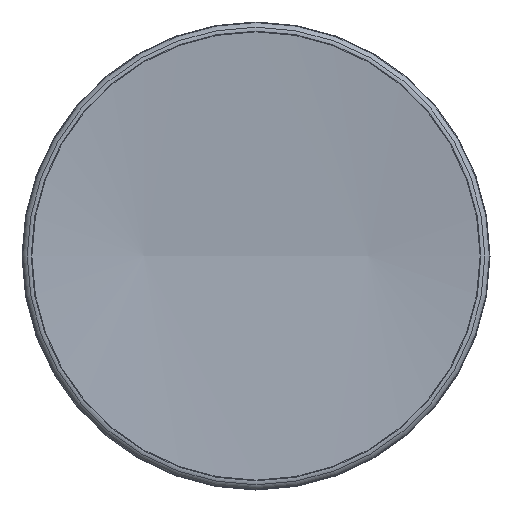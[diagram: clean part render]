
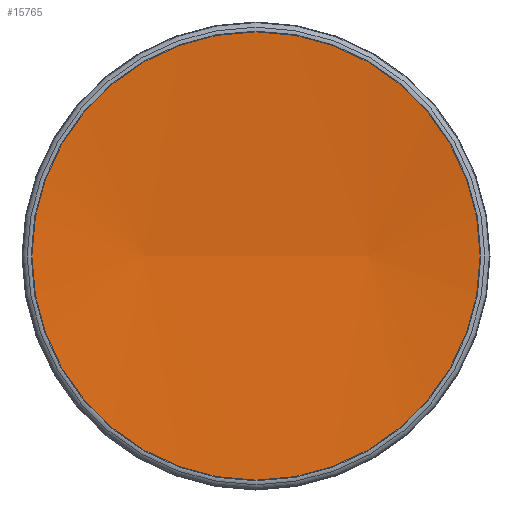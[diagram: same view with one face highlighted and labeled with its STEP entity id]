
A CAD part, front view. The second image highlights one B-rep face of the part: STEP entity #15765.
In plain terms, the highlighted spherical face has radius 600 mm.
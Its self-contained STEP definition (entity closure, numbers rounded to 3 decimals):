
#121=SPHERICAL_SURFACE('',#17803,600.);
#3132=FACE_OUTER_BOUND('',#4098,.T.);
#4098=EDGE_LOOP('',(#13875,#13876));
#5666=CIRCLE('',#17800,76.617);
#5667=CIRCLE('',#17801,76.617);
#7087=VERTEX_POINT('',#31938);
#7088=VERTEX_POINT('',#31939);
#9350=EDGE_CURVE('',#7087,#7088,#5666,.T.);
#9351=EDGE_CURVE('',#7088,#7087,#5667,.T.);
#13875=ORIENTED_EDGE('',*,*,#9350,.T.);
#13876=ORIENTED_EDGE('',*,*,#9351,.T.);
#15765=ADVANCED_FACE('',(#3132),#121,.F.);
#17800=AXIS2_PLACEMENT_3D('',#31940,#22511,#22512);
#17801=AXIS2_PLACEMENT_3D('',#31941,#22513,#22514);
#17803=AXIS2_PLACEMENT_3D('',#31943,#22517,#22518);
#22511=DIRECTION('center_axis',(0.,-1.,0.));
#22512=DIRECTION('ref_axis',(-1.,0.,0.));
#22513=DIRECTION('center_axis',(0.,-1.,0.));
#22514=DIRECTION('ref_axis',(-1.,0.,0.));
#22517=DIRECTION('center_axis',(0.,0.,
1.));
#22518=DIRECTION('ref_axis',(-1.,0.,0.));
#31938=CARTESIAN_POINT('',(0.,-272.125,76.617));
#31939=CARTESIAN_POINT('',(0.,-272.125,-76.617));
#31940=CARTESIAN_POINT('Origin',(0.,-272.125,
0.));
#31941=CARTESIAN_POINT('Origin',(0.,-272.125,
0.));
#31943=CARTESIAN_POINT('Origin',(0.,-867.213,
0.));
